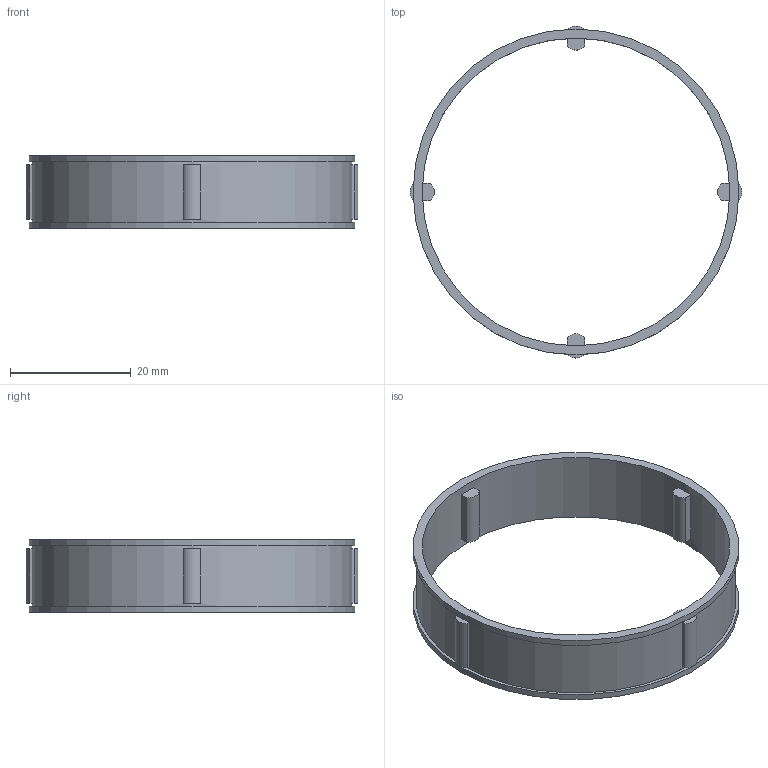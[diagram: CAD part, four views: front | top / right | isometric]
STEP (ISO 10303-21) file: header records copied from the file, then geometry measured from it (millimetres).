
FILE_DESCRIPTION(/* description */ (''),/* implementation_level */ '2;1');
FILE_NAME(/* name */ '300487 FE 455 Z.stp',/* time_stamp */ '2016-11-03T10:27:08+01:00',/* author */ (''),/* organization */ (''),/* preprocessor_version */ 'ST-DEVELOPER v15',/* originating_system */ 'SIEMENS PLM Software NX 8.5',/* authorisation */ '');
FILE_SCHEMA (('CONFIG_CONTROL_DESIGN'));
Length unit declared in the file: millimetre
Products named in the file (1): ATE0000080_01
Bounding box: 55 x 55 x 12 mm (x, y, z)
Volume: 2404 mm3; surface area: 4800.2 mm2
Topology: 1 solids, 1 shells, 48 faces, 114 edges, 76 vertices
Faces by surface type: plane 36, cylinder 12
Full cylindrical faces by diameter (mm): 51 x1, 53 x1, 54 x2
Entity records: 1420 total; most frequent: DIRECTION 242, CARTESIAN_POINT 225, ORIENTED_EDGE 208, EDGE_CURVE 104, AXIS2_PLACEMENT_3D 89, VERTEX_POINT 72, LINE 64, VECTOR 64
